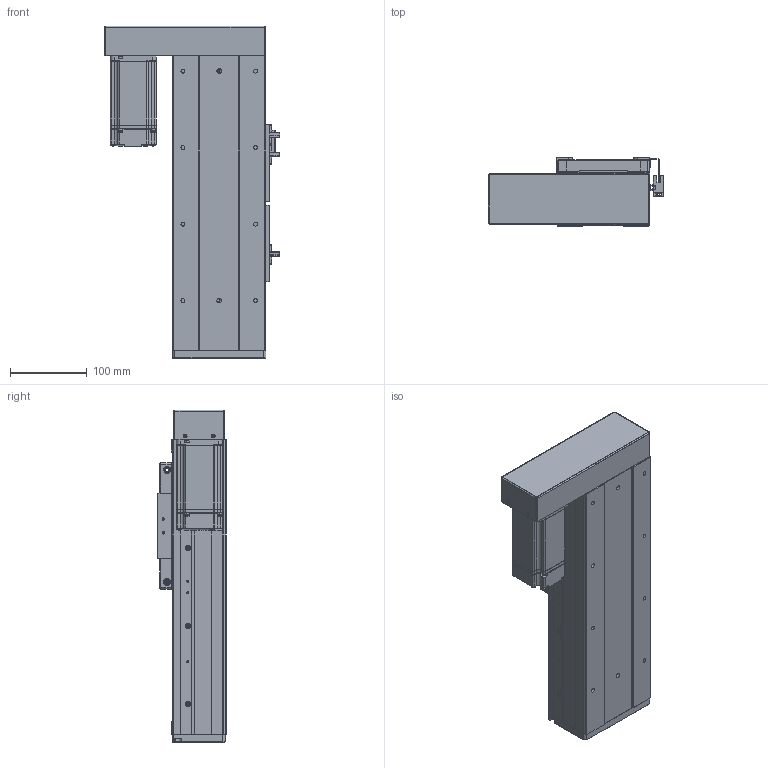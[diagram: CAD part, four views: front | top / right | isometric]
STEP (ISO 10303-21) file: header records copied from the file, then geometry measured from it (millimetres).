
FILE_DESCRIPTION (( 'STEP AP203' ), '1' );
FILE_NAME ('RY120F-L1620-300-LK.SLDASM_150.step', '2021-03-02T08:03:37', ( '盈信电脑' ), ( '东莞市道滘镇水果街19号' ), 'SwSTEP 2.0', 'SolidWorks 2012', '' );
FILE_SCHEMA (( 'CONFIG_CONTROL_DESIGN' ));
Length unit declared in the file: millimetre
Products named in the file (18): RY120F酘衵殏萇儂欶(200W); RY120F酘衵殏萇儂啣(200W PCD70 M4); RY120F-L1620-300-LK.SLDASM_150; RY80俋离覜茼え; FY120F詩湍揤踡輸; 672嫖萇羲壽假蚾釱; 15; 覜茼ん672; RY120F-詩湍幗謫粣; RY120F綴裔啣(臏璃ㄘ; 滅袉蝶18-24; RY120F转折电机端支撑座; RT120F-臏賑輸奻釱; RY120F祥凄詩滅鳥裔; RT120F-臏賑輸 16蹟譫; RY120F滅鳥詩湍-300-LK_150; RT120F-300-倰第裔啣-LK_150; RT120F-300-倰第菁釱-LK_150
Assembly tree (23 placements, depth 2):
  RY120F-L1620-300-LK.SLDASM_150
    RT120F-300-倰第菁釱-LK_150
    RT120F-300-倰第裔啣-LK_150  x2
    RY120F滅鳥詩湍-300-LK_150
    RT120F-臏賑輸 16蹟譫
    RT120F-臏賑輸奻釱
    RY120F转折电机端支撑座
    RY120F祥凄詩滅鳥裔
    滅袉蝶18-24  x2
    RY120F綴裔啣(臏璃ㄘ
    RY120F-詩湍幗謫粣
    覜茼ん672  x3
    672嫖萇羲壽假蚾釱  x2
    RY80俋离覜茼え
    FY120F詩湍揤踡輸  x2
    15
    RY120F酘衵殏萇儂啣(200W PCD70 M4)
    RY120F酘衵殏萇儂欶(200W)
Bounding box: 229.9 x 89 x 434 mm (x, y, z)
Volume: 2124091.8 mm3; surface area: 742702.7 mm2
Topology: 23 solids, 23 shells, 1995 faces, 5349 edges, 3421 vertices
Faces by surface type: plane 896, cylinder 868, cone 205, bspline 26
Entity records: 55751 total; most frequent: CARTESIAN_POINT 10328, DIRECTION 9373, ORIENTED_EDGE 8786, EDGE_CURVE 4393, AXIS2_PLACEMENT_3D 3366, VERTEX_POINT 2865, VECTOR 2641, LINE 2641
